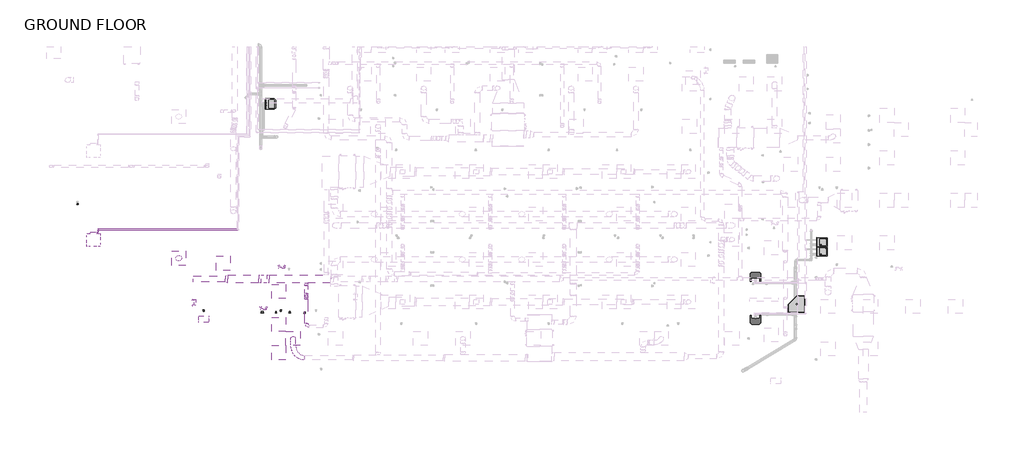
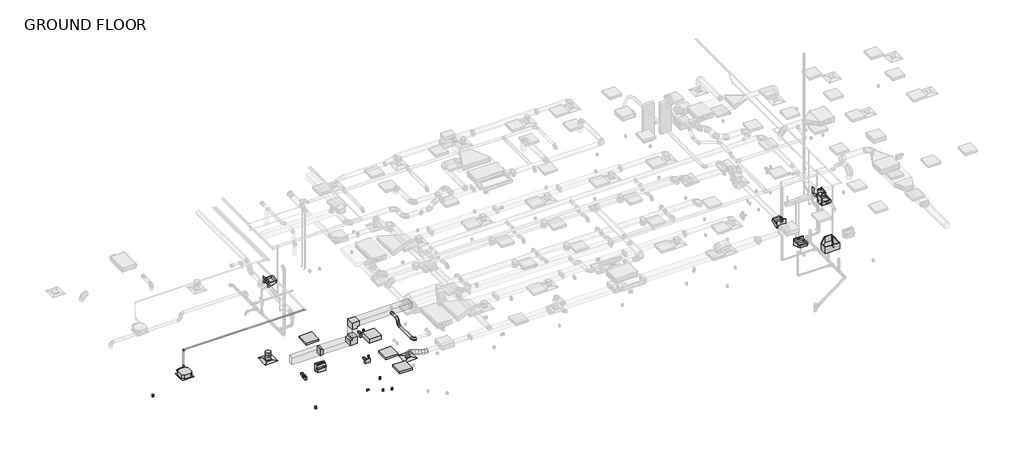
# One storey, part 1 of 22: 9 duct segments, 8 duct fittings, 8 light fixtures, 6 flow terminals, 6 pipe segments, 6 proxies, 4 pipe fittings, 2 air terminals, 2 other elements.
"""IFC4 building model written with IfcOpenShell, lengths in millimetres."""

from ifc_helpers import new_model, si_unit, point, frame, frame_2d, origin, place, context, project, spatial, polyline, circle_curve, ellipse_curve, trimmed, segment, composite_curve, outline, extrude, transform, mapped, element, save
from ifc_brep_helpers import plane_surface, cylinder_surface, advanced_brep
from components import air_terminal_a1f6e78c, air_terminal_e9020785, mechanical_equipment_2d84379e, duplex_receptacle_countertop_10251bba, rectangular_elbow_mitered_transition_standard_eba0128a, rectangular_transition_angle_45_degree_15636467, round_elbow_1_d_c80420c1, round_takeoff_standard_fb854549, round_takeoff_standard_c386a54e, telephone_outlet_data_plain_18c24199, flow_terminal_3ae34a69, drinking_fountain_handicap_standard_fbed446a, flow_terminal_3fd0b982, emergency_wall_light_120v_37438f40, troffer_corner_insert_2x2_3_lamp_emergency_29e3a813, troffer_corner_insert_2x2_3lamp_e67c7f8f, wall_pack_light_exterior_120v_ab60a804, elbow_generic_standard_c06ac706, elbow_generic_standard_a088f956

model = new_model("IFC4")

# Units and contexts
model_context = context("Model", 3, world=origin())
ifc_project = project(units=[si_unit("LENGTHUNIT", "METRE", prefix="MILLI")], contexts=[model_context])

# Site, building, storey
site = spatial("IfcSite", under=ifc_project)
building = spatial("IfcBuilding", under=site)
storey = spatial("IfcBuildingStorey", under=building, Name="GROUND FLOOR", Elevation=30480.0)

# Air terminals
placement = place(None, origin())
air_terminal_shape = air_terminal_a1f6e78c(model_context)
element("IfcAirTerminal", 1, ObjectType="Supply Diffuser - Rectangular Face Round Neck - Hosted : 24\"x24\" Face 10\" Neck - Hosted", at=placement, inside=storey, context=model_context, shape_type="MappedRepresentation", body=[
    mapped(air_terminal_shape, transform((-13605.5079607, -2346.9179995, 32715.2), x_axis=(-1.0, 0.0, 0.0), y_axis=(0.0, 1.0, 0.0), z_axis=(0.0, 0.0, -1.0))),
])
air_terminal_2_shape = air_terminal_e9020785(model_context)
element("IfcAirTerminal", 2, ObjectType="Supply Diffuser - Rectangular Face Round Neck - Hosted : 24\"x24\" Face 8\" Neck - Hosted", at=placement, inside=storey, context=model_context, shape_type="MappedRepresentation", body=[
    mapped(air_terminal_2_shape, transform((-8685.8454607, -5809.2554995, 33223.2), x_axis=(0.0, -1.0, 0.0), y_axis=(-1.0, 0.0, 0.0), z_axis=(0.0, 0.0, -1.0))),
])

# Proxies
mechanical_equipment_shape = mechanical_equipment_2d84379e(model_context)
element("IfcBuildingElementProxy", 3, Name="PLFY-P-NCMU-E_4-way_24x24 : PLFY-P12NCMU-E", ObjectType="PLFY-P-NCMU-E_4-way_24x24 : PLFY-P12NCMU-E", at=placement, inside=storey, context=model_context, shape_type="MappedRepresentation", body=[
    mapped(mechanical_equipment_shape, transform((-17276.6017107, -1632.1077908, 32715.2), x_axis=(1.0, 0.0, 0.0), y_axis=(0.0, -1.0, 0.0), z_axis=(0.0, 0.0, -1.0))),
])
duplex_receptacle_countertop_shape = duplex_receptacle_countertop_10251bba(model_context)
element("IfcBuildingElementProxy", 4, Name="Duplex Receptacle : Countertop", ObjectType="Duplex Receptacle : Countertop", at=placement, inside=storey, context=model_context, shape_type="MappedRepresentation", body=[
    mapped(duplex_receptacle_countertop_shape, transform((-9420.0025409, -4704.3554995, 31699.2), x_axis=(1.0, 0.0, 0.0), y_axis=(0.0, 0.0, 1.0), z_axis=(0.0, -1.0, 0.0))),
])
element("IfcBuildingElementProxy", 5, Name="Duplex Receptacle : Countertop", ObjectType="Duplex Receptacle : Countertop", at=placement, inside=storey, context=model_context, shape_type="MappedRepresentation", body=[
    mapped(duplex_receptacle_countertop_shape, transform((-8190.1427835, -4723.4054995, 31699.2), x_axis=(1.0, 0.0, 0.0), y_axis=(0.0, 0.0, 1.0), z_axis=(0.0, -1.0, 0.0))),
])
element("IfcBuildingElementProxy", 6, Name="Duplex Receptacle : Countertop", ObjectType="Duplex Receptacle : Countertop", at=placement, inside=storey, context=model_context, shape_type="MappedRepresentation", body=[
    mapped(duplex_receptacle_countertop_shape, transform((-10013.3077558, -4704.3554995, 31283.4921716), x_axis=(0.0, 0.0, 1.0), y_axis=(-1.0, 0.0, 0.0), z_axis=(0.0, -1.0, 0.0))),
])
element("IfcBuildingElementProxy", 7, Name="Duplex Receptacle : Standard", ObjectType="Duplex Receptacle : Standard", at=placement, inside=storey, context=model_context, shape_type="MappedRepresentation", body=[
    mapped(duplex_receptacle_countertop_shape, transform((-8826.8400916, -4704.3554995, 30937.2), x_axis=(1.0, 0.0, 0.0), y_axis=(0.0, 0.0, 1.0), z_axis=(0.0, -1.0, 0.0))),
])
element("IfcBuildingElementProxy", 8, Name="Duplex Receptacle : Standard", ObjectType="Duplex Receptacle : Standard", at=placement, inside=storey, context=model_context, shape_type="MappedRepresentation", body=[
    mapped(duplex_receptacle_countertop_shape, transform((-9209.1166922, -4580.5304995, 30937.2), x_axis=(-1.0, 0.0, 0.0), y_axis=(0.0, 0.0, 1.0), z_axis=(0.0, 1.0, 0.0))),
])

# Duct fittings
rectangular_elbow_mitered_transition_standard_shape = rectangular_elbow_mitered_transition_standard_eba0128a(model_context)
element("IfcDuctFitting", 9, ObjectType="Rectangular Elbow - Mitered - Transition : Standard", at=placement, inside=storey, context=model_context, shape_type="MappedRepresentation", body=[
    mapped(rectangular_elbow_mitered_transition_standard_shape, transform((-9938.144811, -3245.6216457, 33020.0), x_axis=(1.0, 0.0, 0.0), y_axis=(0.0, 0.0, 1.0), z_axis=(0.0, -1.0, 0.0))),
])
element("IfcDuctFitting", 10, ObjectType="Rectangular Elbow - Mitered - Transition : Standard", at=placement, inside=storey, context=model_context, shape_type="MappedRepresentation", body=[
    mapped(rectangular_elbow_mitered_transition_standard_shape, transform((-9938.144811, -3245.6216457, 33909.0), x_axis=(0.0, 0.0, 1.0), y_axis=(1.0, 0.0, 0.0), z_axis=(0.0, 1.0, 0.0))),
])
rectangular_transition_angle_45_degree_shape = rectangular_transition_angle_45_degree_15636467(model_context)
element("IfcDuctFitting", 11, ObjectType="Rectangular Transition - Angle : 45 Degree", at=placement, inside=storey, context=model_context, shape_type="MappedRepresentation", body=[
    mapped(rectangular_transition_angle_45_degree_shape, transform((-11614.544811, -3245.6216457, 33020.0), x_axis=(1.0, 0.0, 0.0), y_axis=(0.0, 1.0, 0.0), z_axis=(0.0, 0.0, 1.0))),
])
round_elbow_1_d_shape = round_elbow_1_d_c80420c1(model_context)
element("IfcDuctFitting", 12, ObjectType="Round Elbow : 1 D", at=placement, inside=storey, context=model_context, shape_type="MappedRepresentation", body=[
    mapped(round_elbow_1_d_shape, transform((-8114.9950198, -3982.2216457, 33909.0), x_axis=(0.0, -1.0, 0.0), y_axis=(0.0, 0.0, -1.0), z_axis=(1.0, 0.0, 0.0))),
])
element("IfcDuctFitting", 13, ObjectType="Round Elbow : 1 D", at=placement, inside=storey, context=model_context, shape_type="MappedRepresentation", body=[
    mapped(round_elbow_1_d_shape, transform((-8114.9950198, -3982.2216457, 33617.69375), x_axis=(0.0, 0.0, -1.0), y_axis=(0.0, -1.0, 0.0), z_axis=(-1.0, 0.0, 0.0))),
])
element("IfcDuctFitting", 14, ObjectType="Round Elbow : 1 D", at=placement, inside=storey, context=model_context, shape_type="MappedRepresentation", body=[
    mapped(round_elbow_1_d_shape, transform((-8114.9950198, -5277.6216457, 33617.69375), x_axis=(0.0, -1.0, 0.0), y_axis=(1.0, 0.0, 0.0), z_axis=(0.0, 0.0, 1.0))),
])
round_takeoff_standard_shape = round_takeoff_standard_fb854549(model_context)
element("IfcDuctFitting", 15, ObjectType="Round Takeoff : Standard", at=placement, inside=storey, context=model_context, shape_type="MappedRepresentation", body=[
    mapped(round_takeoff_standard_shape, transform((-8114.9950198, -3423.4216457, 33909.0), x_axis=(0.0, -1.0, 0.0), y_axis=(-1.0, 0.0, 0.0), z_axis=(0.0, 0.0, -1.0))),
])
round_takeoff_standard_2_shape = round_takeoff_standard_c386a54e(model_context)
element("IfcDuctFitting", 16, ObjectType="Round Takeoff : Standard", at=placement, inside=storey, context=model_context, shape_type="MappedRepresentation", body=[
    mapped(round_takeoff_standard_2_shape, transform((-13605.5079607, -2346.9179995, 32998.9347748), x_axis=(0.0, 0.0, -1.0), y_axis=(1.0, 0.0, 0.0), z_axis=(0.0, -1.0, 0.0))),
])

# Duct segments
element("IfcDuctSegment", 17, ObjectType="Flex - Round", at=placement, inside=storey, context=model_context, shape_type="AdvancedBrep", body=[
    advanced_brep(
    [(-8198.0792966, -6736.8850038, 33877.25), (-8198.0792966, -6635.2850038, 33775.65), (-8198.0792966, -6533.6850038, 33877.25), (-8198.0792966, -6635.2850038, 33978.85), (-8218.4985021, -6736.8850038, 33877.25), (-8209.2197661, -6635.2850038, 33775.65), (-8203.7506501, -6533.6850038, 33877.25), (-8213.0293861, -6635.2850038, 33978.85), (-8780.4464452, -5846.3123979, 33277.175), (-8722.9023592, -5714.6545149, 33277.175), (-8591.2444762, -5772.198601, 33277.175), (-8648.7885622, -5903.856484, 33277.175), (-8339.1813775, -6719.2681674, 33872.6992727), (-8305.7046683, -6621.2004973, 33772.0117333), (-8286.7257752, -6521.5726042, 33874.121162), (-8320.2024844, -6619.6402743, 33974.8087013), (-8470.9946788, -6667.3379246, 33857.9603557), (-8407.576349, -6581.0662995, 33760.620787), (-8373.445886, -6487.4076424, 33864.4244129), (-8436.8642158, -6573.6792675, 33961.7639816), (-8586.4194049, -6583.3695154, 33831.5875842), (-8494.3723968, -6517.9244901, 33740.7892274), (-8447.4747299, -6433.5536332, 33847.5099626), (-8539.5217381, -6498.9986586, 33938.3083194), (-8672.9590499, -6473.1112187, 33793.1745119), (-8559.9397444, -6434.3865455, 33711.6853032), (-8505.3268469, -6359.8454977, 33821.8306621), (-8618.3461523, -6398.570171, 33903.3198707), (-8729.5028063, -6349.7598134, 33744.3839657), (-8605.1998762, -6335.6506069, 33672.6311849), (-8548.0458512, -6266.6530828, 33784.969235), (-8672.3487813, -6280.7622894, 33856.7220158), (-8763.1059458, -6224.3988891, 33686.2556065), (-8633.5596559, -6229.8507249, 33623.5730468), (-8576.5078643, -6160.4718052, 33735.7342483), (-8706.0541542, -6155.0199695, 33798.4168081), (-8780.2289374, -6105.1031652, 33618.9182516), (-8648.4220926, -6126.3042664, 33565.1254814), (-8592.2442877, -6050.8362895, 33673.8496695), (-8724.0511326, -6029.6351883, 33727.6424397), (-8786.0904012, -6000.0543024, 33542.8019622), (-8653.5396732, -6034.5872396, 33498.6691717), (-8598.028372, -5947.1742189, 33598.7382218), (-8730.5790999, -5912.6412817, 33642.8710123), (-8785.3303968, -5917.6725877, 33459.215254), (-8652.8864253, -5963.7775382, 33426.8237401), (-8597.211928, -5858.6746506, 33508.9441744), (-8729.6558995, -5812.5697001, 33541.3356883), (-8782.2172351, -5864.8720883, 33369.7155214), (-8650.2671566, -5919.3536663, 33351.5228491), (-8593.5185156, -5796.0328612, 33402.7629174), (-8725.4685941, -5741.5512832, 33420.9555897), (-8780.4464452, -5846.3123979, 33291.2670205), (-8648.7885622, -5903.856484, 33286.0190236), (-8591.2444762, -5772.198601, 33302.0197505), (-8722.9023592, -5714.6545149, 33307.2677474)],
    [
        (0, 1, circle_curve(frame((-8198.0792966, -6635.2850038, 33877.25), z_axis=(1.0, 0.0, 0.0), x_axis=(0.0, -1.0, 0.0)), 101.6)),
        (1, 2, circle_curve(frame((-8198.0792966, -6635.2850038, 33877.25), z_axis=(1.0, 0.0, 0.0), x_axis=(0.0, -1.0, 0.0)), 101.6)),
        (2, 3, circle_curve(frame((-8198.0792966, -6635.2850038, 33877.25), z_axis=(1.0, 0.0, 0.0), x_axis=(0.0, -1.0, 0.0)), 101.6)),
        (3, 0, circle_curve(frame((-8198.0792966, -6635.2850038, 33877.25), z_axis=(1.0, 0.0, 0.0), x_axis=(0.0, -1.0, 0.0)), 101.6)),
        (0, 4),
        (4, 5, ellipse_curve(frame((-8211.1245761, -6635.2850038, 33877.25), z_axis=(0.9972022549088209, -0.07237495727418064, 0.01869567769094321), x_axis=(0.07475067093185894, 0.9655093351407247, -0.24940741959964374)), 101.8850484, 101.6)),
        (5, 1),
        (5, 6, ellipse_curve(frame((-8211.1245761, -6635.2850038, 33877.25), z_axis=(0.9972022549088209, -0.07237495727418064, 0.01869567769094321), x_axis=(0.07475067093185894, 0.9655093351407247, -0.24940741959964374)), 101.8850484, 101.6)),
        (6, 2),
        (6, 7, ellipse_curve(frame((-8211.1245761, -6635.2850038, 33877.25), z_axis=(0.9972022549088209, -0.07237495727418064, 0.01869567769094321), x_axis=(0.07475067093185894, 0.9655093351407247, -0.24940741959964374)), 101.8850484, 101.6)),
        (7, 3),
        (7, 4, ellipse_curve(frame((-8211.1245761, -6635.2850038, 33877.25), z_axis=(0.9972022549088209, -0.07237495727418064, 0.01869567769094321), x_axis=(0.07475067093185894, 0.9655093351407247, -0.24940741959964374)), 101.8850484, 101.6)),
        (8, 9, circle_curve(frame((-8685.8454607, -5809.2554995, 33277.175), z_axis=(0.0, 0.0, -1.0), x_axis=(-0.9311120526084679, -0.3647332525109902, 0.0)), 101.6)),
        (9, 10, circle_curve(frame((-8685.8454607, -5809.2554995, 33277.175), z_axis=(0.0, 0.0, -1.0), x_axis=(-0.9311120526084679, -0.3647332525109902, 0.0)), 101.6)),
        (10, 11, circle_curve(frame((-8685.8454607, -5809.2554995, 33277.175), z_axis=(0.0, 0.0, -1.0), x_axis=(-0.9311120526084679, -0.3647332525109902, 0.0)), 101.6)),
        (11, 8, circle_curve(frame((-8685.8454607, -5809.2554995, 33277.175), z_axis=(0.0, 0.0, -1.0), x_axis=(-0.9311120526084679, -0.3647332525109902, 0.0)), 101.6)),
        (4, 12),
        (12, 13, ellipse_curve(frame((-8312.9535763, -6620.4203858, 33873.4102173), z_axis=(0.9639965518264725, -0.25629211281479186, 0.07088724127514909), x_axis=(0.26585434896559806, 0.9232205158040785, -0.2774623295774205)), 102.330517, 101.6)),
        (13, 5),
        (13, 14, ellipse_curve(frame((-8312.9535763, -6620.4203858, 33873.4102173), z_axis=(0.9639965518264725, -0.25629211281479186, 0.07088724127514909), x_axis=(0.26585434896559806, 0.9232205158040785, -0.2774623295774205)), 102.330517, 101.6)),
        (14, 6),
        (14, 15, ellipse_curve(frame((-8312.9535763, -6620.4203858, 33873.4102173), z_axis=(0.9639965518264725, -0.25629211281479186, 0.07088724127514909), x_axis=(0.26585434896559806, 0.9232205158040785, -0.2774623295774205)), 102.330517, 101.6)),
        (15, 7),
        (15, 12, ellipse_curve(frame((-8312.9535763, -6620.4203858, 33873.4102173), z_axis=(0.9639965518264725, -0.25629211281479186, 0.07088724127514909), x_axis=(0.26585434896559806, 0.9232205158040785, -0.2774623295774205)), 102.330517, 101.6)),
        (12, 16),
        (16, 17, ellipse_curve(frame((-8422.2202824, -6577.3727835, 33861.1923843), z_axis=(0.8678005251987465, -0.4756430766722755, 0.14382597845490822), x_axis=(0.4963065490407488, 0.8153501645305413, -0.29813406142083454)), 102.4855472, 101.6)),
        (17, 13),
        (17, 18, ellipse_curve(frame((-8422.2202824, -6577.3727835, 33861.1923843), z_axis=(0.8678005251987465, -0.4756430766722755, 0.14382597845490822), x_axis=(0.4963065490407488, 0.8153501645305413, -0.29813406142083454)), 102.4855472, 101.6)),
        (18, 14),
        (18, 19, ellipse_curve(frame((-8422.2202824, -6577.3727835, 33861.1923843), z_axis=(0.8678005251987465, -0.4756430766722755, 0.14382597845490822), x_axis=(0.4963065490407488, 0.8153501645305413, -0.29813406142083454)), 102.4855472, 101.6)),
        (19, 15),
        (19, 16, ellipse_curve(frame((-8422.2202824, -6577.3727835, 33861.1923843), z_axis=(0.8678005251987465, -0.4756430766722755, 0.14382597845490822), x_axis=(0.4963065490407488, 0.8153501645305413, -0.29813406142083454)), 102.4855472, 101.6)),
        (16, 20),
        (20, 21, ellipse_curve(frame((-8516.9470674, -6508.4615743, 33839.5487734), z_axis=(0.702315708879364, -0.6752916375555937, 0.2252417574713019), x_axis=(0.7098106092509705, 0.6402843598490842, -0.2936066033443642)), 102.6208376, 101.6)),
        (21, 17),
        (21, 22, ellipse_curve(frame((-8516.9470674, -6508.4615743, 33839.5487734), z_axis=(0.702315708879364, -0.6752916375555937, 0.2252417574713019), x_axis=(0.7098106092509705, 0.6402843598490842, -0.2936066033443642)), 102.6208376, 101.6)),
        (22, 18),
        (22, 23, ellipse_curve(frame((-8516.9470674, -6508.4615743, 33839.5487734), z_axis=(0.702315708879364, -0.6752916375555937, 0.2252417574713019), x_axis=(0.7098106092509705, 0.6402843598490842, -0.2936066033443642)), 102.6208376, 101.6)),
        (23, 19),
        (23, 20, ellipse_curve(frame((-8516.9470674, -6508.4615743, 33839.5487734), z_axis=(0.702315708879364, -0.6752916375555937, 0.2252417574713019), x_axis=(0.7098106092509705, 0.6402843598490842, -0.2936066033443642)), 102.6208376, 101.6)),
        (20, 24),
        (24, 25, ellipse_curve(frame((-8589.1429484, -6416.4783582, 33807.502587), z_axis=(0.497296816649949, -0.8127730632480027, 0.3034729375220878), x_axis=(0.857785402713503, 0.4082076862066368, -0.31236307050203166)), 102.3212376, 101.6)),
        (25, 21),
        (25, 26, ellipse_curve(frame((-8589.1429484, -6416.4783582, 33807.502587), z_axis=(0.497296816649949, -0.8127730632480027, 0.3034729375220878), x_axis=(0.857785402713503, 0.4082076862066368, -0.31236307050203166)), 102.3212376, 101.6)),
        (26, 22),
        (26, 27, ellipse_curve(frame((-8589.1429484, -6416.4783582, 33807.502587), z_axis=(0.497296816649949, -0.8127730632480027, 0.3034729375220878), x_axis=(0.857785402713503, 0.4082076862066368, -0.31236307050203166)), 102.3212376, 101.6)),
        (27, 23),
        (27, 24, ellipse_curve(frame((-8589.1429484, -6416.4783582, 33807.502587), z_axis=(0.497296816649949, -0.8127730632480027, 0.3034729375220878), x_axis=(0.857785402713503, 0.4082076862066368, -0.31236307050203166)), 102.3212376, 101.6)),
        (24, 28),
        (28, 29, ellipse_curve(frame((-8638.7743288, -6308.2064481, 33764.6766004), z_axis=(0.3153905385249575, -0.8717420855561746, 0.37495939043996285), x_axis=(0.9008898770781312, 0.15088375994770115, -0.40697852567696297)), 101.9821261, 101.6)),
        (29, 25),
        (29, 30, ellipse_curve(frame((-8638.7743288, -6308.2064481, 33764.6766004), z_axis=(0.3153905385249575, -0.8717420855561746, 0.37495939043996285), x_axis=(0.9008898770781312, 0.15088375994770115, -0.40697852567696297)), 101.9821261, 101.6)),
        (30, 26),
        (30, 31, ellipse_curve(frame((-8638.7743288, -6308.2064481, 33764.6766004), z_axis=(0.3153905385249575, -0.8717420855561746, 0.37495939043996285), x_axis=(0.9008898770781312, 0.15088375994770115, -0.40697852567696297)), 101.9821261, 101.6)),
        (31, 27),
        (31, 28, ellipse_curve(frame((-8638.7743288, -6308.2064481, 33764.6766004), z_axis=(0.3153905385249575, -0.8717420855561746, 0.37495939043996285), x_axis=(0.9008898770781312, 0.15088375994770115, -0.40697852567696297)), 101.9821261, 101.6)),
        (28, 32),
        (32, 33, ellipse_curve(frame((-8669.8069051, -6192.4353472, 33710.9949274), z_axis=(0.18059511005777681, -0.8749201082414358, 0.44933307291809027), x_axis=(0.8112873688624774, -0.12576767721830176, -0.570959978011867)), 101.8440562, 101.6)),
        (33, 29),
        (33, 34, ellipse_curve(frame((-8669.8069051, -6192.4353472, 33710.9949274), z_axis=(0.18059511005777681, -0.8749201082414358, 0.44933307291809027), x_axis=(0.8112873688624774, -0.12576767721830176, -0.570959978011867)), 101.8440562, 101.6)),
        (34, 30),
        (34, 35, ellipse_curve(frame((-8669.8069051, -6192.4353472, 33710.9949274), z_axis=(0.18059511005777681, -0.8749201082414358, 0.44933307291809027), x_axis=(0.8112873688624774, -0.12576767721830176, -0.570959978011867)), 101.8440562, 101.6)),
        (35, 31),
        (35, 32, ellipse_curve(frame((-8669.8069051, -6192.4353472, 33710.9949274), z_axis=(0.18059511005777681, -0.8749201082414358, 0.44933307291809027), x_axis=(0.8112873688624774, -0.12576767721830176, -0.570959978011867)), 101.8440562, 101.6)),
        (32, 36),
        (36, 37, ellipse_curve(frame((-8686.2366126, -6077.9697273, 33646.3839605), z_axis=(0.08478508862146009, -0.8385227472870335, 0.5382295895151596), x_axis=(0.5731333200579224, -0.4008265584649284, -0.7147420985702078)), 101.8415032, 101.6)),
        (37, 33),
        (37, 38, ellipse_curve(frame((-8686.2366126, -6077.9697273, 33646.3839605), z_axis=(0.08478508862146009, -0.8385227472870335, 0.5382295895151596), x_axis=(0.5731333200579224, -0.4008265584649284, -0.7147420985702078)), 101.8415032, 101.6)),
        (38, 34),
        (38, 39, ellipse_curve(frame((-8686.2366126, -6077.9697273, 33646.3839605), z_axis=(0.08478508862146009, -0.8385227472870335, 0.5382295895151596), x_axis=(0.5731333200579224, -0.4008265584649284, -0.7147420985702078)), 101.8415032, 101.6)),
        (39, 35),
        (39, 36, ellipse_curve(frame((-8686.2366126, -6077.9697273, 33646.3839605), z_axis=(0.08478508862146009, -0.8385227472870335, 0.5382295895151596), x_axis=(0.5731333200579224, -0.4008265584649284, -0.7147420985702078)), 101.8415032, 101.6)),
        (36, 40),
        (40, 41, ellipse_curve(frame((-8692.0593866, -5973.6142607, 33570.770092), z_axis=(0.019403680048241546, -0.7582927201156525, 0.6516253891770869), x_axis=(0.2979591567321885, -0.6177476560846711, -0.7277418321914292)), 101.9832289, 101.6)),
        (41, 37),
        (41, 42, ellipse_curve(frame((-8692.0593866, -5973.6142607, 33570.770092), z_axis=(0.019403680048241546, -0.7582927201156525, 0.6516253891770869), x_axis=(0.2979591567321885, -0.6177476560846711, -0.7277418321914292)), 101.9832289, 101.6)),
        (42, 38),
        (42, 43, ellipse_curve(frame((-8692.0593866, -5973.6142607, 33570.770092), z_axis=(0.019403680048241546, -0.7582927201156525, 0.6516253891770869), x_axis=(0.2979591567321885, -0.6177476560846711, -0.7277418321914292)), 101.9832289, 101.6)),
        (43, 39),
        (43, 40, ellipse_curve(frame((-8692.0593866, -5973.6142607, 33570.770092), z_axis=(0.019403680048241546, -0.7582927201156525, 0.6516253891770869), x_axis=(0.2979591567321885, -0.6177476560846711, -0.7277418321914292)), 101.9832289, 101.6)),
        (40, 44),
        (44, 45, ellipse_curve(frame((-8691.2711624, -5888.1736191, 33484.0797142), z_axis=(-0.01834951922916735, -0.6095278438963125, 0.7925522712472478), x_axis=(0.09556421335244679, -0.7901257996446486, -0.6054491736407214)), 102.3747884, 101.6)),
        (45, 41),
        (45, 46, ellipse_curve(frame((-8691.2711624, -5888.1736191, 33484.0797142), z_axis=(-0.01834951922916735, -0.6095278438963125, 0.7925522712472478), x_axis=(0.09556421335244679, -0.7901257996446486, -0.6054491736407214)), 102.3747884, 101.6)),
        (46, 42),
        (46, 47, ellipse_curve(frame((-8691.2711624, -5888.1736191, 33484.0797142), z_axis=(-0.01834951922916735, -0.6095278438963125, 0.7925522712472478), x_axis=(0.09556421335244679, -0.7901257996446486, -0.6054491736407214)), 102.3747884, 101.6)),
        (47, 43),
        (47, 44, ellipse_curve(frame((-8691.2711624, -5888.1736191, 33484.0797142), z_axis=(-0.01834951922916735, -0.6095278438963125, 0.7925522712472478), x_axis=(0.09556421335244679, -0.7901257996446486, -0.6054491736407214)), 102.3747884, 101.6)),
        (44, 48),
        (48, 49, ellipse_curve(frame((-8687.8678753, -5830.4524747, 33386.2392194), z_axis=(-0.02624939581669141, -0.3732420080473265, 0.9273625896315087), x_axis=(-0.0266548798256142, -0.9270910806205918, -0.37388720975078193)), 102.7591668, 101.6)),
        (49, 45),
        (49, 50, ellipse_curve(frame((-8687.8678753, -5830.4524747, 33386.2392194), z_axis=(-0.02624939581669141, -0.3732420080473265, 0.9273625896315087), x_axis=(-0.0266548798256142, -0.9270910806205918, -0.37388720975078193)), 102.7591668, 101.6)),
        (50, 46),
        (50, 51, ellipse_curve(frame((-8687.8678753, -5830.4524747, 33386.2392194), z_axis=(-0.02624939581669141, -0.3732420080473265, 0.9273625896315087), x_axis=(-0.0266548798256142, -0.9270910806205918, -0.37388720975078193)), 102.7591668, 101.6)),
        (51, 47),
        (51, 48, ellipse_curve(frame((-8687.8678753, -5830.4524747, 33386.2392194), z_axis=(-0.02624939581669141, -0.3732420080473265, 0.9273625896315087), x_axis=(-0.0266548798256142, -0.9270910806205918, -0.37388720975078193)), 102.7591668, 101.6)),
        (48, 52),
        (52, 53, ellipse_curve(frame((-8685.8454607, -5809.2554995, 33296.6433855), z_axis=(-0.011055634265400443, -0.11587436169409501, 0.9932023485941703), x_axis=(-0.09433356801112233, -0.9887123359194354, -0.11640057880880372)), 102.2953683, 101.6)),
        (53, 49),
        (53, 54, ellipse_curve(frame((-8685.8454607, -5809.2554995, 33296.6433855), z_axis=(-0.011055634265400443, -0.11587436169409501, 0.9932023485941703), x_axis=(-0.09433356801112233, -0.9887123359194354, -0.11640057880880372)), 102.2953683, 101.6)),
        (54, 50),
        (54, 55, ellipse_curve(frame((-8685.8454607, -5809.2554995, 33296.6433855), z_axis=(-0.011055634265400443, -0.11587436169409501, 0.9932023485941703), x_axis=(-0.09433356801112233, -0.9887123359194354, -0.11640057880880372)), 102.2953683, 101.6)),
        (55, 51),
        (55, 52, ellipse_curve(frame((-8685.8454607, -5809.2554995, 33296.6433855), z_axis=(-0.011055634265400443, -0.11587436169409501, 0.9932023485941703), x_axis=(-0.09433356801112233, -0.9887123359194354, -0.11640057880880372)), 102.2953683, 101.6)),
        (52, 8),
        (11, 53),
        (10, 54),
        (9, 55),
    ],
    [
        plane_surface(frame((-8198.0792966, -6635.2850038, 33775.65), z_axis=(1.0, 0.0, 0.0), x_axis=(0.0, -1.0, 0.0))),
        cylinder_surface(frame((-8198.0792966, -6635.2850038, 33877.25), z_axis=(1.0, 0.0, 0.0), x_axis=(0.0, -1.0, 0.0)), 101.6),
        plane_surface(frame((-8685.8454607, -5910.8554995, 33277.175), z_axis=(0.0, 0.0, -1.0), x_axis=(-1.0, 0.0, 0.0))),
        cylinder_surface(frame((-8211.1245761, -6635.2850038, 33877.25), z_axis=(0.9888246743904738, -0.144344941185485, 0.03728674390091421), x_axis=(-0.144344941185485, -0.9895237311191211, -0.0027061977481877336)), 101.6),
        cylinder_surface(frame((-8312.9535763, -6620.4203858, 33873.4102173), z_axis=(0.9254048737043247, -0.36458004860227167, 0.10347563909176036), x_axis=(-0.3646514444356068, -0.9309521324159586, -0.01890638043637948)), 101.6),
        cylinder_surface(frame((-8422.2202824, -6577.3727835, 33861.1923843), z_axis=(0.7951993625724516, -0.5784863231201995, 0.18169080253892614), x_axis=(-0.5792359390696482, -0.8133379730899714, -0.05447080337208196)), 101.6),
        cylinder_surface(frame((-8516.9470674, -6508.4615743, 33839.5487734), z_axis=(0.5954592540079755, -0.7586618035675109, 0.264311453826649), x_axis=(-0.762069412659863, -0.6375396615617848, -0.11310786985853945)), 101.6),
        cylinder_surface(frame((-8589.1429484, -6416.4783582, 33807.502587), z_axis=(0.3921237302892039, -0.8554262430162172, 0.33835620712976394), x_axis=(-0.8663776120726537, -0.46706019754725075, -0.17676143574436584)), 101.6),
        cylinder_surface(frame((-8638.7743288, -6308.2064481, 33764.6766004), z_axis=(0.23629381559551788, -0.8815251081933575, 0.4087526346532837), x_axis=(-0.9090375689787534, -0.34914771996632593, -0.2274787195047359)), 101.6),
        cylinder_surface(frame((-8669.8069051, -6192.4353472, 33710.9949274), z_axis=(0.12403085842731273, -0.8641218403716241, 0.4877599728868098), x_axis=(-0.9231582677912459, -0.28073787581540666, -0.26261199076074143)), 101.6),
        cylinder_surface(frame((-8686.2366126, -6077.9697273, 33646.3839605), z_axis=(0.04513720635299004, -0.8089467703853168, 0.58614653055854), x_axis=(-0.9258356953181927, -0.254258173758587, -0.2796087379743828)), 101.6),
        cylinder_surface(frame((-8692.0593866, -5973.6142607, 33570.770092), z_axis=(-0.006475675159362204, -0.7019396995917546, 0.7122069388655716), x_axis=(-0.9255499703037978, -0.265424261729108, -0.2700133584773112)), 101.6),
        cylinder_surface(frame((-8691.2711624, -5888.1736191, 33484.0797142), z_axis=(-0.029945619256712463, -0.5078899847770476, 0.8609012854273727), x_axis=(-0.9268429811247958, -0.3083750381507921, -0.21416564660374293)), 101.6),
        cylinder_surface(frame((-8687.8678753, -5830.4524747, 33386.2392194), z_axis=(-0.02196096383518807, -0.2301733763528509, 0.9729018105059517), x_axis=(-0.9299499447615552, -0.3525531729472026, -0.10440000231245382)), 101.6),
        cylinder_surface(frame((-8685.8454607, -5809.2554995, 33296.6433855), z_axis=(0.0, 0.0, 0.9999999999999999), x_axis=(-0.9311120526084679, -0.3647332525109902, 0.0)), 101.6),
    ],
    [
        (0, [[1, 2, 3, 4]]),
        (1, [[-1, 5, 6, 7]]),
        (1, [[-2, -7, 8, 9]]),
        (1, [[-3, -9, 10, 11]]),
        (1, [[-4, -11, 12, -5]]),
        (2, [[13, 14, 15, 16]]),
        (3, [[-6, 17, 18, 19]]),
        (3, [[-8, -19, 20, 21]]),
        (3, [[-10, -21, 22, 23]]),
        (3, [[-12, -23, 24, -17]]),
        (4, [[-18, 25, 26, 27]]),
        (4, [[-20, -27, 28, 29]]),
        (4, [[-22, -29, 30, 31]]),
        (4, [[-24, -31, 32, -25]]),
        (5, [[-26, 33, 34, 35]]),
        (5, [[-28, -35, 36, 37]]),
        (5, [[-30, -37, 38, 39]]),
        (5, [[-32, -39, 40, -33]]),
        (6, [[-34, 41, 42, 43]]),
        (6, [[-36, -43, 44, 45]]),
        (6, [[-38, -45, 46, 47]]),
        (6, [[-40, -47, 48, -41]]),
        (7, [[-42, 49, 50, 51]]),
        (7, [[-44, -51, 52, 53]]),
        (7, [[-46, -53, 54, 55]]),
        (7, [[-48, -55, 56, -49]]),
        (8, [[-50, 57, 58, 59]]),
        (8, [[-52, -59, 60, 61]]),
        (8, [[-54, -61, 62, 63]]),
        (8, [[-56, -63, 64, -57]]),
        (9, [[-58, 65, 66, 67]]),
        (9, [[-60, -67, 68, 69]]),
        (9, [[-62, -69, 70, 71]]),
        (9, [[-64, -71, 72, -65]]),
        (10, [[-66, 73, 74, 75]]),
        (10, [[-68, -75, 76, 77]]),
        (10, [[-70, -77, 78, 79]]),
        (10, [[-72, -79, 80, -73]]),
        (11, [[-74, 81, 82, 83]]),
        (11, [[-76, -83, 84, 85]]),
        (11, [[-78, -85, 86, 87]]),
        (11, [[-80, -87, 88, -81]]),
        (12, [[-82, 89, 90, 91]]),
        (12, [[-84, -91, 92, 93]]),
        (12, [[-86, -93, 94, 95]]),
        (12, [[-88, -95, 96, -89]]),
        (13, [[-90, 97, 98, 99]]),
        (13, [[-92, -99, 100, 101]]),
        (13, [[-94, -101, 102, 103]]),
        (13, [[-96, -103, 104, -97]]),
        (14, [[-98, 105, -16, 106]]),
        (14, [[-100, -106, -15, 107]]),
        (14, [[-102, -107, -14, 108]]),
        (14, [[-104, -108, -13, -105]]),
    ],
),
])
element("IfcDuctSegment", 18, ObjectType="Mitered Elbows / Taps", at=placement, inside=storey, context=model_context, shape_type="SweptSolid", body=[
    extrude(outline(polyline([(-12986.144811, -3372.6216457), (-12986.144811, -3118.6216457), (-11614.544811, -3118.6216457), (-11614.544811, -3372.6216457), (-12986.144811, -3372.6216457)])), frame((0.0, 0.0, 32842.2), z_axis=(0.0, 0.0, 1.0), x_axis=(1.0, 0.0, 0.0)), (0.0, 0.0, 1.0), 355.6),
])
element("IfcDuctSegment", 19, ObjectType="Mitered Elbows / Taps", at=placement, inside=storey, context=model_context, shape_type="SweptSolid", body=[
    extrude(outline(polyline([(-11491.902762, -3423.4216457), (-11491.902762, -3067.8216457), (-10166.744811, -3067.8216457), (-10166.744811, -3423.4216457), (-11491.902762, -3423.4216457)])), frame((0.0, 0.0, 32893.0), z_axis=(0.0, 0.0, 1.0), x_axis=(1.0, 0.0, 0.0)), (0.0, 0.0, 1.0), 254.0),
])
element("IfcDuctSegment", 20, ObjectType="Mitered Elbows / Taps", at=placement, inside=storey, context=model_context, shape_type="SweptSolid", body=[
    extrude(outline(polyline([(-9811.144811, -3067.8216457), (-9811.144811, -3423.4216457), (-10065.144811, -3423.4216457), (-10065.144811, -3067.8216457), (-9811.144811, -3067.8216457)])), frame((0.0, 0.0, 33248.6), z_axis=(0.0, 0.0, 1.0), x_axis=(1.0, 0.0, 0.0)), (0.0, 0.0, 1.0), 431.8),
])
element("IfcDuctSegment", 21, ObjectType="Mitered Elbows / Taps", at=placement, inside=storey, context=model_context, shape_type="SweptSolid", body=[
    extrude(outline(polyline([(-9709.544811, -3423.4216457), (-9709.544811, -3067.8216457), (-7067.944811, -3067.8216457), (-7067.944811, -3423.4216457), (-9709.544811, -3423.4216457)])), frame((0.0, 0.0, 33782.0), z_axis=(0.0, 0.0, 1.0), x_axis=(1.0, 0.0, 0.0)), (0.0, 0.0, 1.0), 254.0),
])
element("IfcDuctSegment", 22, ObjectType="Taps / Short Radius", at=placement, inside=storey, context=model_context, shape_type="SweptSolid", body=[
    extrude(outline(composite_curve([segment(trimmed(circle_curve(frame_2d((-13605.5079607, -2346.9179995)), 127.0), [point((-13478.5079607, -2346.9179995))], [point((-13605.5079607, -2473.9179995))], False, "CARTESIAN"), True, "CONTINUOUS"), segment(trimmed(circle_curve(frame_2d((-13605.5079607, -2346.9179995)), 127.0), [point((-13605.5079607, -2473.9179995))], [point((-13732.5079607, -2346.9179995))], False, "CARTESIAN"), True, "CONTINUOUS"), segment(trimmed(circle_curve(frame_2d((-13605.5079607, -2346.9179995)), 127.0), [point((-13732.5079607, -2346.9179995))], [point((-13605.5079607, -2219.9179995))], False, "CARTESIAN"), True, "CONTINUOUS"), segment(trimmed(circle_curve(frame_2d((-13605.5079607, -2346.9179995)), 127.0), [point((-13605.5079607, -2219.9179995))], [point((-13478.5079607, -2346.9179995))], False, "CARTESIAN"), True, "CONTINUOUS")], self_intersect=False)), frame((0.0, 0.0, 32769.175), z_axis=(0.0, 0.0, 1.0), x_axis=(1.0, 0.0, 0.0)), (0.0, 0.0, 1.0), 128.1597748),
])
element("IfcDuctSegment", 23, ObjectType="Taps / Short Radius", at=placement, inside=storey, context=model_context, shape_type="SweptSolid", body=[
    extrude(outline(composite_curve([segment(trimmed(circle_curve(frame_2d((33909.0, -8114.9950198)), 63.5), [point((33909.0, -8178.4950198))], [point((33845.5, -8114.9950198))], False, "CARTESIAN"), True, "CONTINUOUS"), segment(trimmed(circle_curve(frame_2d((33909.0, -8114.9950198)), 63.5), [point((33845.5, -8114.9950198))], [point((33909.0, -8051.4950198))], False, "CARTESIAN"), True, "CONTINUOUS"), segment(trimmed(circle_curve(frame_2d((33909.0, -8114.9950198)), 63.5), [point((33909.0, -8051.4950198))], [point((33972.5, -8114.9950198))], False, "CARTESIAN"), True, "CONTINUOUS"), segment(trimmed(circle_curve(frame_2d((33909.0, -8114.9950198)), 63.5), [point((33972.5, -8114.9950198))], [point((33909.0, -8178.4950198))], False, "CARTESIAN"), True, "CONTINUOUS")], self_intersect=False)), frame((0.0, -3855.2216457, 0.0), z_axis=(0.0, 1.0, 0.0), x_axis=(0.0, 0.0, 1.0)), (0.0, 0.0, 1.0), 330.2),
])
element("IfcDuctSegment", 24, ObjectType="Taps / Short Radius", at=placement, inside=storey, context=model_context, shape_type="SweptSolid", body=[
    extrude(outline(composite_curve([segment(trimmed(circle_curve(frame_2d((-8114.9950198, -3982.2216457)), 63.5), [point((-8178.4950198, -3982.2216457))], [point((-8114.9950198, -3918.7216457))], False, "CARTESIAN"), True, "CONTINUOUS"), segment(trimmed(circle_curve(frame_2d((-8114.9950198, -3982.2216457)), 63.5), [point((-8114.9950198, -3918.7216457))], [point((-8051.4950198, -3982.2216457))], False, "CARTESIAN"), True, "CONTINUOUS"), segment(trimmed(circle_curve(frame_2d((-8114.9950198, -3982.2216457)), 63.5), [point((-8051.4950198, -3982.2216457))], [point((-8114.9950198, -4045.7216457))], False, "CARTESIAN"), True, "CONTINUOUS"), segment(trimmed(circle_curve(frame_2d((-8114.9950198, -3982.2216457)), 63.5), [point((-8114.9950198, -4045.7216457))], [point((-8178.4950198, -3982.2216457))], False, "CARTESIAN"), True, "CONTINUOUS")], self_intersect=False)), frame((0.0, 0.0, 33744.69375), z_axis=(0.0, 0.0, 1.0), x_axis=(1.0, 0.0, 0.0)), (0.0, 0.0, 1.0), 37.30625),
])
element("IfcDuctSegment", 25, ObjectType="Taps / Short Radius", at=placement, inside=storey, context=model_context, shape_type="SweptSolid", body=[
    extrude(outline(composite_curve([segment(trimmed(circle_curve(frame_2d((33617.69375, -8114.9950198)), 63.5), [point((33617.69375, -8178.4950198))], [point((33554.19375, -8114.9950198))], False, "CARTESIAN"), True, "CONTINUOUS"), segment(trimmed(circle_curve(frame_2d((33617.69375, -8114.9950198)), 63.5), [point((33554.19375, -8114.9950198))], [point((33617.69375, -8051.4950198))], False, "CARTESIAN"), True, "CONTINUOUS"), segment(trimmed(circle_curve(frame_2d((33617.69375, -8114.9950198)), 63.5), [point((33617.69375, -8051.4950198))], [point((33681.19375, -8114.9950198))], False, "CARTESIAN"), True, "CONTINUOUS"), segment(trimmed(circle_curve(frame_2d((33617.69375, -8114.9950198)), 63.5), [point((33681.19375, -8114.9950198))], [point((33617.69375, -8178.4950198))], False, "CARTESIAN"), True, "CONTINUOUS")], self_intersect=False)), frame((0.0, -5150.6216457, 0.0), z_axis=(0.0, 1.0, 0.0), x_axis=(0.0, 0.0, 1.0)), (0.0, 0.0, 1.0), 1041.4),
])

# Electric appliance
telephone_outlet_data_plain_shape = telephone_outlet_data_plain_18c24199(model_context)
element("IfcElectricAppliance", 26, ObjectType="Telephone Outlet - Data : Plain", at=placement, inside=storey, context=model_context, shape_type="MappedRepresentation", body=[
    mapped(telephone_outlet_data_plain_shape, transform((-17080.8785489, -33.9304995, 30079.95), x_axis=(1.0, 0.0, 0.0), y_axis=(0.0, 0.0, 1.0), z_axis=(0.0, -1.0, 0.0))),
])

# Flow terminals
flow_terminal_shape = flow_terminal_3ae34a69(model_context)
element("IfcFlowTerminal", 27, ObjectType="Lavatory_Commercial-Willoughby-ES-1015-HC : Lavatory_Commercial-Willoughby-ES-1015-HC", at=placement, inside=storey, context=model_context, shape_type="MappedRepresentation", body=[
    mapped(flow_terminal_shape, transform((11224.5795393, -3342.2804995, 31699.2), x_axis=(-1.0, 0.0, 0.0), y_axis=(0.0, 0.0, 1.0), z_axis=(0.0, 1.0, 0.0))),
])
element("IfcFlowTerminal", 28, ObjectType="Lavatory_Commercial-Willoughby-ES-1015-HC : Lavatory_Commercial-Willoughby-ES-1015-HC", at=placement, inside=storey, context=model_context, shape_type="MappedRepresentation", body=[
    mapped(flow_terminal_shape, transform((11224.5795393, -4809.1304995, 31699.2), x_axis=(1.0, 0.0, 0.0), y_axis=(0.0, 0.0, 1.0), z_axis=(0.0, -1.0, 0.0))),
])
element("IfcFlowTerminal", 29, ObjectType="Lavatory_Commercial-Willoughby-ES-1015-HC : Lavatory_Commercial-Willoughby-ES-1015-HC", at=placement, inside=storey, context=model_context, shape_type="MappedRepresentation", body=[
    mapped(flow_terminal_shape, transform((-9879.6454607, 4296.7695005, 31394.4), x_axis=(0.0, 1.0, 0.0), y_axis=(0.0, 0.0, 1.0), z_axis=(1.0, 0.0, 0.0))),
])
drinking_fountain_handicap_standard_shape = drinking_fountain_handicap_standard_fbed446a(model_context)
element("IfcFlowTerminal", 30, ObjectType="Drinking Fountain - Handicap : Standard", at=placement, inside=storey, context=model_context, shape_type="MappedRepresentation", body=[
    mapped(drinking_fountain_handicap_standard_shape, transform((13856.6545393, -2065.3502033, 31242.0), x_axis=(0.0, 1.0, 0.0), y_axis=(0.0, 0.0, 1.0), z_axis=(1.0, 0.0, 0.0))),
])
element("IfcFlowTerminal", 31, ObjectType="Drinking Fountain - Handicap : Standard", at=placement, inside=storey, context=model_context, shape_type="MappedRepresentation", body=[
    mapped(drinking_fountain_handicap_standard_shape, transform((13856.6545393, -1658.9502033, 31394.4), x_axis=(0.0, 1.0, 0.0), y_axis=(0.0, 0.0, 1.0), z_axis=(1.0, 0.0, 0.0))),
])
flow_terminal_2_shape = flow_terminal_3fd0b982(model_context)
element("IfcFlowTerminal", 32, ObjectType="Sink - Mop : 28\"x28\"", at=placement, inside=storey, context=model_context, shape_type="MappedRepresentation", body=[
    mapped(flow_terminal_2_shape, transform((13348.6545393, -4685.3054995, 30480.0), x_axis=(-1.0, 0.0, 0.0), y_axis=(0.0, -1.0, 0.0), z_axis=(0.0, 0.0, 1.0))),
])

# Light fixtures
emergency_wall_light_120v_shape = emergency_wall_light_120v_37438f40(model_context)
element("IfcLightFixture", 33, ObjectType="Emergency Wall Light : 120V", at=placement, inside=storey, context=model_context, shape_type="MappedRepresentation", body=[
    mapped(emergency_wall_light_120v_shape, transform((-12875.2579607, -4258.3586004, 32715.2), x_axis=(0.0, -1.0, 0.0), y_axis=(0.0, 0.0, 1.0), z_axis=(-1.0, 0.0, 0.0))),
])
element("IfcLightFixture", 34, ObjectType="Emergency Wall Light : 120V", at=placement, inside=storey, context=model_context, shape_type="MappedRepresentation", body=[
    mapped(emergency_wall_light_120v_shape, transform((-9959.4065237, -4580.5304995, 32715.2), x_axis=(-1.0, 0.0, 0.0), y_axis=(0.0, 0.0, 1.0), z_axis=(0.0, 1.0, 0.0))),
])
element("IfcLightFixture", 35, ObjectType="Emergency Wall Light : 120V", at=placement, inside=storey, context=model_context, shape_type="MappedRepresentation", body=[
    mapped(emergency_wall_light_120v_shape, transform((-9177.4265533, -2789.8304995, 32715.2), x_axis=(-1.0, 0.0, 0.0), y_axis=(0.0, 0.0, 1.0), z_axis=(0.0, 1.0, 0.0))),
])
troffer_corner_insert_2x2_3_lamp_emergency_shape = troffer_corner_insert_2x2_3_lamp_emergency_29e3a813(model_context)
element("IfcLightFixture", 36, ObjectType="Troffer Corner Insert : 2x2 3 Lamp Emergency", at=placement, inside=storey, context=model_context, shape_type="MappedRepresentation", body=[
    mapped(troffer_corner_insert_2x2_3_lamp_emergency_shape, transform((-9298.6204607, -3780.4553042, 30784.8), x_axis=(1.0, 0.0, 0.0), y_axis=(0.0, 1.0, 0.0), z_axis=(0.0, 0.0, 1.0))),
])
troffer_corner_insert_2x2_3lamp_shape = troffer_corner_insert_2x2_3lamp_e67c7f8f(model_context)
element("IfcLightFixture", 37, ObjectType="Troffer Corner Insert : 2x2 3Lamp", at=placement, inside=storey, context=model_context, shape_type="MappedRepresentation", body=[
    mapped(troffer_corner_insert_2x2_3lamp_shape, transform((-11696.5392107, -2561.2553042, 30784.8), x_axis=(1.0, 0.0, 0.0), y_axis=(0.0, 1.0, 0.0), z_axis=(0.0, 0.0, 1.0))),
])
element("IfcLightFixture", 38, ObjectType="Troffer Corner Insert : 2x2 3Lamp", at=placement, inside=storey, context=model_context, shape_type="MappedRepresentation", body=[
    mapped(troffer_corner_insert_2x2_3lamp_shape, transform((-9295.4454607, -5199.6554995, 30784.8), x_axis=(1.0, 0.0, 0.0), y_axis=(0.0, 1.0, 0.0), z_axis=(0.0, 0.0, 1.0))),
])
element("IfcLightFixture", 39, ObjectType="Troffer Corner Insert : 2x2 3Lamp", at=placement, inside=storey, context=model_context, shape_type="MappedRepresentation", body=[
    mapped(troffer_corner_insert_2x2_3lamp_shape, transform((-9295.4454607, -6418.8554995, 30784.8), x_axis=(1.0, 0.0, 0.0), y_axis=(0.0, 1.0, 0.0), z_axis=(0.0, 0.0, 1.0))),
])
wall_pack_light_exterior_120v_shape = wall_pack_light_exterior_120v_ab60a804(model_context)
element("IfcLightFixture", 40, ObjectType="Wall Pack Light - Exterior : 120V", at=placement, inside=storey, context=model_context, shape_type="MappedRepresentation", body=[
    mapped(wall_pack_light_exterior_120v_shape, transform((-12522.4940366, -4834.5304995, 33528.0), x_axis=(1.0, 0.0, 0.0), y_axis=(0.0, 0.0, 1.0), z_axis=(0.0, -1.0, 0.0))),
])

# Pipe fittings
elbow_generic_standard_shape = elbow_generic_standard_c06ac706(model_context)
element("IfcPipeFitting", 41, ObjectType="Elbow - Generic : Standard", at=placement, inside=storey, context=model_context, shape_type="MappedRepresentation", body=[
    mapped(elbow_generic_standard_shape, transform((-17078.1642107, -1137.3456434, 32865.2187602), x_axis=(0.0, 1.0, 0.0), y_axis=(0.0, 0.0, 1.0), z_axis=(1.0, 0.0, 0.0))),
])
element("IfcPipeFitting", 42, ObjectType="Elbow - Generic : Standard", at=placement, inside=storey, context=model_context, shape_type="MappedRepresentation", body=[
    mapped(elbow_generic_standard_shape, transform((-17078.1642107, -1137.3456434, 33680.4), x_axis=(0.0, 0.0, 1.0), y_axis=(1.0, 0.0, 0.0), z_axis=(0.0, 1.0, 0.0))),
])
elbow_generic_standard_2_shape = elbow_generic_standard_a088f956(model_context)
element("IfcPipeFitting", 43, ObjectType="Elbow - Generic : Standard", at=placement, inside=storey, context=model_context, shape_type="MappedRepresentation", body=[
    mapped(elbow_generic_standard_2_shape, transform((-17074.9892107, -1083.1156703, 32835.8500102), x_axis=(0.0, 1.0, 0.0), y_axis=(0.0, 0.0, 1.0), z_axis=(1.0, 0.0, 0.0))),
])
element("IfcPipeFitting", 44, ObjectType="Elbow - Generic : Standard", at=placement, inside=storey, context=model_context, shape_type="MappedRepresentation", body=[
    mapped(elbow_generic_standard_2_shape, transform((-17074.9892107, -1083.1156703, 33680.4), x_axis=(0.0, 0.0, 1.0), y_axis=(1.0, 0.0, 0.0), z_axis=(0.0, 1.0, 0.0))),
])

# Pipe segments
element("IfcPipeSegment", 45, ObjectType="Copper Tubing", at=placement, inside=storey, context=model_context, shape_type="SweptSolid", body=[
    extrude(outline(composite_curve([segment(trimmed(circle_curve(frame_2d((32865.2187602, -17078.1642107)), 14.2875), [point((32865.2187602, -17063.8767107))], [point((32879.5062602, -17078.1642107))], False, "CARTESIAN"), True, "CONTINUOUS"), segment(trimmed(circle_curve(frame_2d((32865.2187602, -17078.1642107)), 14.2875), [point((32879.5062602, -17078.1642107))], [point((32865.2187602, -17092.4517107))], False, "CARTESIAN"), True, "CONTINUOUS"), segment(trimmed(circle_curve(frame_2d((32865.2187602, -17078.1642107)), 14.2875), [point((32865.2187602, -17092.4517107))], [point((32850.9312602, -17078.1642107))], False, "CARTESIAN"), True, "CONTINUOUS"), segment(trimmed(circle_curve(frame_2d((32865.2187602, -17078.1642107)), 14.2875), [point((32850.9312602, -17078.1642107))], [point((32865.2187602, -17063.8767107))], False, "CARTESIAN"), True, "CONTINUOUS")], self_intersect=False)), frame((0.0, -1278.5304995, 0.0), z_axis=(0.0, 1.0, 0.0), x_axis=(0.0, 0.0, 1.0)), (0.0, 0.0, 1.0), 120.5473561),
])
element("IfcPipeSegment", 46, ObjectType="Copper Tubing", at=placement, inside=storey, context=model_context, shape_type="SweptSolid", body=[
    extrude(outline(composite_curve([segment(trimmed(circle_curve(frame_2d((32835.8500102, -17074.9892107)), 7.9375), [point((32835.8500102, -17067.0517107))], [point((32843.7875102, -17074.9892107))], False, "CARTESIAN"), True, "CONTINUOUS"), segment(trimmed(circle_curve(frame_2d((32835.8500102, -17074.9892107)), 7.9375), [point((32843.7875102, -17074.9892107))], [point((32835.8500102, -17082.9267107))], False, "CARTESIAN"), True, "CONTINUOUS"), segment(trimmed(circle_curve(frame_2d((32835.8500102, -17074.9892107)), 7.9375), [point((32835.8500102, -17082.9267107))], [point((32827.9125102, -17074.9892107))], False, "CARTESIAN"), True, "CONTINUOUS"), segment(trimmed(circle_curve(frame_2d((32835.8500102, -17074.9892107)), 7.9375), [point((32827.9125102, -17074.9892107))], [point((32835.8500102, -17067.0517107))], False, "CARTESIAN"), True, "CONTINUOUS")], self_intersect=False)), frame((0.0, -1278.5304995, 0.0), z_axis=(0.0, 1.0, 0.0), x_axis=(0.0, 0.0, 1.0)), (0.0, 0.0, 1.0), 181.1273292),
])
element("IfcPipeSegment", 47, ObjectType="Copper Tubing", at=placement, inside=storey, context=model_context, shape_type="SweptSolid", body=[
    extrude(outline(composite_curve([segment(trimmed(circle_curve(frame_2d((-1083.1156703, 33680.4)), 7.9375), [point((-1091.0531703, 33680.4))], [point((-1083.1156703, 33688.3375))], False, "CARTESIAN"), True, "CONTINUOUS"), segment(trimmed(circle_curve(frame_2d((-1083.1156703, 33680.4)), 7.9375), [point((-1083.1156703, 33688.3375))], [point((-1075.1781703, 33680.4))], False, "CARTESIAN"), True, "CONTINUOUS"), segment(trimmed(circle_curve(frame_2d((-1083.1156703, 33680.4)), 7.9375), [point((-1075.1781703, 33680.4))], [point((-1083.1156703, 33672.4625))], False, "CARTESIAN"), True, "CONTINUOUS"), segment(trimmed(circle_curve(frame_2d((-1083.1156703, 33680.4)), 7.9375), [point((-1083.1156703, 33672.4625))], [point((-1091.0531703, 33680.4))], False, "CARTESIAN"), True, "CONTINUOUS")], self_intersect=False)), frame((-17060.7017107, 0.0, 0.0), z_axis=(1.0, 0.0, 0.0), x_axis=(0.0, 1.0, 0.0)), (0.0, 0.0, 1.0), 5965.7492177),
])
element("IfcPipeSegment", 48, ObjectType="Copper Tubing", at=placement, inside=storey, context=model_context, shape_type="SweptSolid", body=[
    extrude(outline(composite_curve([segment(trimmed(circle_curve(frame_2d((-17074.9892107, -1083.1156703)), 7.9375), [point((-17082.9267107, -1083.1156703))], [point((-17074.9892107, -1075.1781703))], False, "CARTESIAN"), True, "CONTINUOUS"), segment(trimmed(circle_curve(frame_2d((-17074.9892107, -1083.1156703)), 7.9375), [point((-17074.9892107, -1075.1781703))], [point((-17067.0517107, -1083.1156703))], False, "CARTESIAN"), True, "CONTINUOUS"), segment(trimmed(circle_curve(frame_2d((-17074.9892107, -1083.1156703)), 7.9375), [point((-17067.0517107, -1083.1156703))], [point((-17074.9892107, -1091.0531703))], False, "CARTESIAN"), True, "CONTINUOUS"), segment(trimmed(circle_curve(frame_2d((-17074.9892107, -1083.1156703)), 7.9375), [point((-17074.9892107, -1091.0531703))], [point((-17082.9267107, -1083.1156703))], False, "CARTESIAN"), True, "CONTINUOUS")], self_intersect=False)), frame((0.0, 0.0, 32850.1375102), z_axis=(0.0, 0.0, 1.0), x_axis=(1.0, 0.0, 0.0)), (0.0, 0.0, 1.0), 815.9749898),
])
element("IfcPipeSegment", 49, ObjectType="Copper Tubing", at=placement, inside=storey, context=model_context, shape_type="SweptSolid", body=[
    extrude(outline(composite_curve([segment(trimmed(circle_curve(frame_2d((-1137.3456434, 33680.4)), 14.2875), [point((-1151.6331434, 33680.4))], [point((-1137.3456434, 33694.6875))], False, "CARTESIAN"), True, "CONTINUOUS"), segment(trimmed(circle_curve(frame_2d((-1137.3456434, 33680.4)), 14.2875), [point((-1137.3456434, 33694.6875))], [point((-1123.0581434, 33680.4))], False, "CARTESIAN"), True, "CONTINUOUS"), segment(trimmed(circle_curve(frame_2d((-1137.3456434, 33680.4)), 14.2875), [point((-1123.0581434, 33680.4))], [point((-1137.3456434, 33666.1125))], False, "CARTESIAN"), True, "CONTINUOUS"), segment(trimmed(circle_curve(frame_2d((-1137.3456434, 33680.4)), 14.2875), [point((-1137.3456434, 33666.1125))], [point((-1151.6331434, 33680.4))], False, "CARTESIAN"), True, "CONTINUOUS")], self_intersect=False)), frame((-17057.5267107, 0.0, 0.0), z_axis=(1.0, 0.0, 0.0), x_axis=(0.0, 1.0, 0.0)), (0.0, 0.0, 1.0), 6003.925),
])
element("IfcPipeSegment", 50, ObjectType="Copper Tubing", at=placement, inside=storey, context=model_context, shape_type="SweptSolid", body=[
    extrude(outline(composite_curve([segment(trimmed(circle_curve(frame_2d((-17078.1642107, -1137.3456434)), 14.2875), [point((-17092.4517107, -1137.3456434))], [point((-17078.1642107, -1123.0581434))], False, "CARTESIAN"), True, "CONTINUOUS"), segment(trimmed(circle_curve(frame_2d((-17078.1642107, -1137.3456434)), 14.2875), [point((-17078.1642107, -1123.0581434))], [point((-17063.8767107, -1137.3456434))], False, "CARTESIAN"), True, "CONTINUOUS"), segment(trimmed(circle_curve(frame_2d((-17078.1642107, -1137.3456434)), 14.2875), [point((-17063.8767107, -1137.3456434))], [point((-17078.1642107, -1151.6331434))], False, "CARTESIAN"), True, "CONTINUOUS"), segment(trimmed(circle_curve(frame_2d((-17078.1642107, -1137.3456434)), 14.2875), [point((-17078.1642107, -1151.6331434))], [point((-17092.4517107, -1137.3456434))], False, "CARTESIAN"), True, "CONTINUOUS")], self_intersect=False)), frame((0.0, 0.0, 32885.8562602), z_axis=(0.0, 0.0, 1.0), x_axis=(1.0, 0.0, 0.0)), (0.0, 0.0, 1.0), 773.9062398),
])

# Switching device
element("IfcSwitchingDevice", 51, ObjectType="Lighting Switches : Three Way", at=placement, inside=storey, context=model_context, shape_type="MappedRepresentation", body=[
    mapped(duplex_receptacle_countertop_shape, transform((-12536.9990241, -4580.5304995, 31191.2), x_axis=(-1.0, 0.0, 0.0), y_axis=(0.0, 0.0, 1.0), z_axis=(0.0, 1.0, 0.0))),
])

save(model, "model.ifc")
